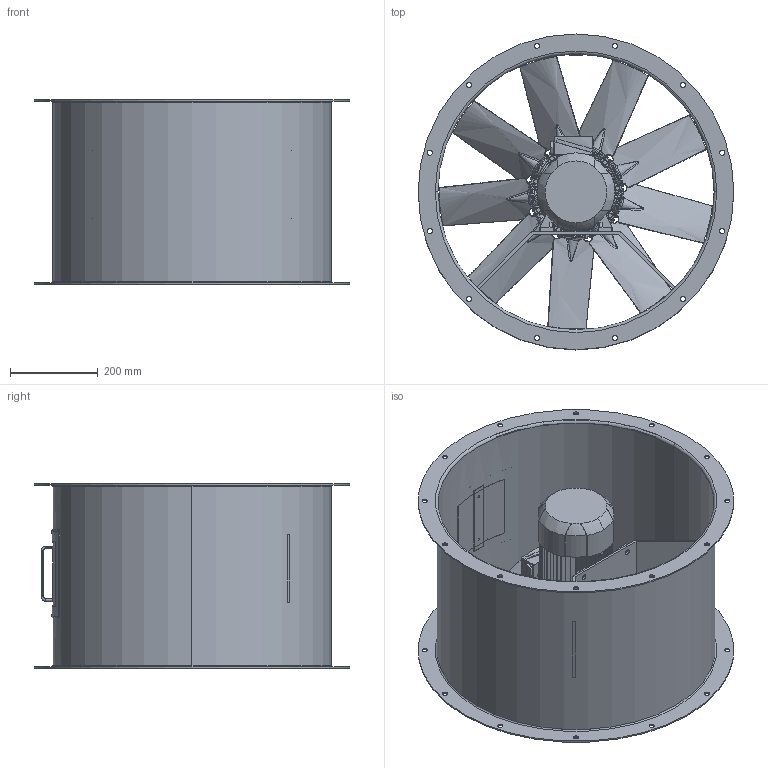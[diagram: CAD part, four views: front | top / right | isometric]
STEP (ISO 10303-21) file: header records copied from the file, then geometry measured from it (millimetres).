
FILE_DESCRIPTION (( 'STEP AP214' ), '1' );
FILE_NAME ('Assem_BRV 630-1_FF_L=420_mot.90_lang utf.STEP', '2020-09-01T13:39:43', ( '' ), ( '' ), 'SwSTEP 2.0', 'SolidWorks 2016', '' );
FILE_SCHEMA (( 'AUTOMOTIVE_DESIGN' ));
Length unit declared in the file: millimetre
Products named in the file (26): M8_C1-1 Bolt And Nuts - 624_9-9_35_PAG_4ZL_24_8_52_A-108013_4; Boss Bolt And Nuts - 624_9-9_35_PAG_4ZL_24_8_52_A-108013_2; M8_C1-1 Bolt And Nuts - 624_9-9_35_PAG_4ZL_24_8_52_A-108013_9; M8_C1-1 Bolt And Nuts - 624_9-9_35_PAG_4ZL_24_8_52_A-108013; 24000706500 - 624_9-9_35_PAG_4ZL_24_8_52_A-108013; BB-Nut-Y63206000040_624_9-9_35_PAG_4ZL_24_8_52_A-108013; 14100200049 - 624_9-9_35_PAG_4ZL_24_8_52_A-108013; 624_9-9_35_PAG_4ZL_24_8_52_A-108013; M8_C1-1 Bolt And Nuts - 624_9-9_35_PAG_4ZL_24_8_52_A-108013_8; M8_C1-1 Bolt And Nuts - 624_9-9_35_PAG_4ZL_24_8_52_A-108013_6; M8_C1-1 Bolt And Nuts - 624_9-9_35_PAG_4ZL_24_8_52_A-108013_3; C1-1-Bolt-Y62006350040_624_9-9_35_PAG_4ZL_24_8_52_A-108013; M8_C1-1 Bolt And Nuts - 624_9-9_35_PAG_4ZL_24_8_52_A-108013_2; BRV 630 Insp.luke 150x150; Boss Bolt And Nuts - 624_9-9_35_PAG_4ZL_24_8_52_A-108013_3; 1TZ9 A 90L-4 1 5kW B3 IE2; Boss Bolt And Nuts - 624_9-9_35_PAG_4ZL_24_8_52_A-108013_5; BRV 630-1_FF_L=420_mot.90_standard; Boss Bolt And Nuts - 624_9-9_35_PAG_4ZL_24_8_52_A-108013; Assem_BRV 630-1_FF_L=420_mot.90_lang utf; M8_C1-1 Bolt And Nuts - 624_9-9_35_PAG_4ZL_24_8_52_A-108013_5; C1-1-Nuts-Y63206000040_624_9-9_35_PAG_4ZL_24_8_52_A-108013; BB-Bolt-Y62006200040_624_9-9_35_PAG_4ZL_24_8_52_A-108013; 21090708103 - 624_9-9_35_PAG_4ZL_24_8_52_A-108013; M8_C1-1 Bolt And Nuts - 624_9-9_35_PAG_4ZL_24_8_52_A-108013_7; Boss Bolt And Nuts - 624_9-9_35_PAG_4ZL_24_8_52_A-108013_4
Assembly tree (58 placements, depth 4):
  Assem_BRV 630-1_FF_L=420_mot.90_lang utf
    BRV 630-1_FF_L=420_mot.90_standard
    1TZ9 A 90L-4 1 5kW B3 IE2
    BRV 630 Insp.luke 150x150
    624_9-9_35_PAG_4ZL_24_8_52_A-108013
      21090708103 - 624_9-9_35_PAG_4ZL_24_8_52_A-108013  x2
      14100200049 - 624_9-9_35_PAG_4ZL_24_8_52_A-108013  x9
      24000706500 - 624_9-9_35_PAG_4ZL_24_8_52_A-108013
      Boss Bolt And Nuts - 624_9-9_35_PAG_4ZL_24_8_52_A-108013
        BB-Bolt-Y62006200040_624_9-9_35_PAG_4ZL_24_8_52_A-108013
        BB-Nut-Y63206000040_624_9-9_35_PAG_4ZL_24_8_52_A-108013
      M8_C1-1 Bolt And Nuts - 624_9-9_35_PAG_4ZL_24_8_52_A-108013
        C1-1-Bolt-Y62006350040_624_9-9_35_PAG_4ZL_24_8_52_A-108013
        C1-1-Nuts-Y63206000040_624_9-9_35_PAG_4ZL_24_8_52_A-108013
      Boss Bolt And Nuts - 624_9-9_35_PAG_4ZL_24_8_52_A-108013_2
        BB-Bolt-Y62006200040_624_9-9_35_PAG_4ZL_24_8_52_A-108013
        BB-Nut-Y63206000040_624_9-9_35_PAG_4ZL_24_8_52_A-108013
      Boss Bolt And Nuts - 624_9-9_35_PAG_4ZL_24_8_52_A-108013_3
        BB-Bolt-Y62006200040_624_9-9_35_PAG_4ZL_24_8_52_A-108013
        BB-Nut-Y63206000040_624_9-9_35_PAG_4ZL_24_8_52_A-108013
      Boss Bolt And Nuts - 624_9-9_35_PAG_4ZL_24_8_52_A-108013_4
        BB-Bolt-Y62006200040_624_9-9_35_PAG_4ZL_24_8_52_A-108013
        BB-Nut-Y63206000040_624_9-9_35_PAG_4ZL_24_8_52_A-108013
      Boss Bolt And Nuts - 624_9-9_35_PAG_4ZL_24_8_52_A-108013_5
        BB-Bolt-Y62006200040_624_9-9_35_PAG_4ZL_24_8_52_A-108013
        BB-Nut-Y63206000040_624_9-9_35_PAG_4ZL_24_8_52_A-108013
      M8_C1-1 Bolt And Nuts - 624_9-9_35_PAG_4ZL_24_8_52_A-108013_2
        C1-1-Bolt-Y62006350040_624_9-9_35_PAG_4ZL_24_8_52_A-108013
        C1-1-Nuts-Y63206000040_624_9-9_35_PAG_4ZL_24_8_52_A-108013
      M8_C1-1 Bolt And Nuts - 624_9-9_35_PAG_4ZL_24_8_52_A-108013_3
        C1-1-Bolt-Y62006350040_624_9-9_35_PAG_4ZL_24_8_52_A-108013
        C1-1-Nuts-Y63206000040_624_9-9_35_PAG_4ZL_24_8_52_A-108013
      M8_C1-1 Bolt And Nuts - 624_9-9_35_PAG_4ZL_24_8_52_A-108013_4
        C1-1-Bolt-Y62006350040_624_9-9_35_PAG_4ZL_24_8_52_A-108013
        C1-1-Nuts-Y63206000040_624_9-9_35_PAG_4ZL_24_8_52_A-108013
      M8_C1-1 Bolt And Nuts - 624_9-9_35_PAG_4ZL_24_8_52_A-108013_5
        C1-1-Bolt-Y62006350040_624_9-9_35_PAG_4ZL_24_8_52_A-108013
        C1-1-Nuts-Y63206000040_624_9-9_35_PAG_4ZL_24_8_52_A-108013
      M8_C1-1 Bolt And Nuts - 624_9-9_35_PAG_4ZL_24_8_52_A-108013_6
        C1-1-Bolt-Y62006350040_624_9-9_35_PAG_4ZL_24_8_52_A-108013
        C1-1-Nuts-Y63206000040_624_9-9_35_PAG_4ZL_24_8_52_A-108013
      M8_C1-1 Bolt And Nuts - 624_9-9_35_PAG_4ZL_24_8_52_A-108013_7
        C1-1-Bolt-Y62006350040_624_9-9_35_PAG_4ZL_24_8_52_A-108013
        C1-1-Nuts-Y63206000040_624_9-9_35_PAG_4ZL_24_8_52_A-108013
      M8_C1-1 Bolt And Nuts - 624_9-9_35_PAG_4ZL_24_8_52_A-108013_8
        C1-1-Bolt-Y62006350040_624_9-9_35_PAG_4ZL_24_8_52_A-108013
        C1-1-Nuts-Y63206000040_624_9-9_35_PAG_4ZL_24_8_52_A-108013
      M8_C1-1 Bolt And Nuts - 624_9-9_35_PAG_4ZL_24_8_52_A-108013_9
        C1-1-Bolt-Y62006350040_624_9-9_35_PAG_4ZL_24_8_52_A-108013
        C1-1-Nuts-Y63206000040_624_9-9_35_PAG_4ZL_24_8_52_A-108013
Bounding box: 720 x 720 x 420 mm (x, y, z)
Volume: 11173974.1 mm3; surface area: 3486617.6 mm2
Topology: 45 solids, 45 shells, 3754 faces, 9279 edges, 5638 vertices
Faces by surface type: bspline 1685, plane 844, cylinder 607, cone 602, torus 16
Entity records: 80584 total; most frequent: CARTESIAN_POINT 38634, ORIENTED_EDGE 9626, DIRECTION 7367, EDGE_CURVE 4813, VERTEX_POINT 3017, AXIS2_PLACEMENT_3D 2837, EDGE_LOOP 2004, ADVANCED_FACE 1847
